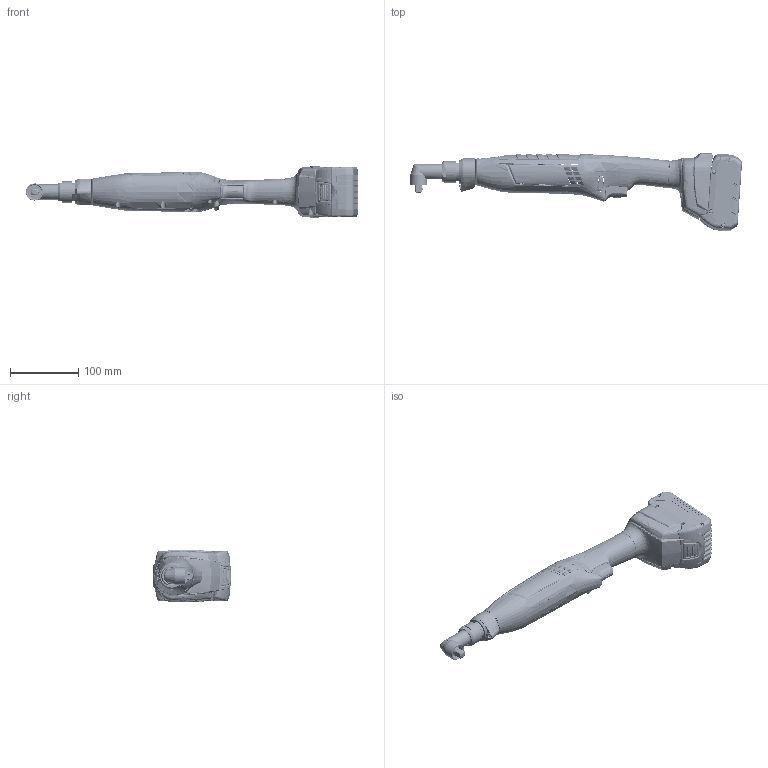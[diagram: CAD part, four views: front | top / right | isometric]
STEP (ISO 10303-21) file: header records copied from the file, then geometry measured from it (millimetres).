
FILE_DESCRIPTION((''),'2;1');
FILE_NAME('AWAS_15-500_XL_WK_SW0001','2011-06-29T',('lem2mt'),(''),'PRO/ENGINEER BY PARAMETRIC TECHNOLOGY CORPORATION, 2009380','PRO/ENGINEER BY PARAMETRIC TECHNOLOGY CORPORATION, 2009380','');
FILE_SCHEMA(('AUTOMOTIVE_DESIGN_CC2 { 1 2 10303 214 -1 1 5 2 }'));
Length unit declared in the file: millimetre
Products named in the file (1): AWAS_15-500_XL_WK_SW0001
Bounding box: 484.83 x 114.18 x 77.09 mm (x, y, z)
Volume: 380831.6 mm3; surface area: 346286.2 mm2
Topology: 5 solids, 5 shells, 15063 faces, 39646 edges, 24629 vertices
Faces by surface type: plane 5444, bspline 4436, cylinder 3273, cone 939, sphere 435, torus 387, extrusion 149
Entity records: 1121048 total; most frequent: CARTESIAN_POINT 526442, ORIENTED_EDGE 79206, PRESENTATION_STYLE_ASSIGNMENT 54799, DIRECTION 52095, STYLED_ITEM 39757, CURVE_STYLE 39752, EDGE_CURVE 39603, VERTEX_POINT 24630
